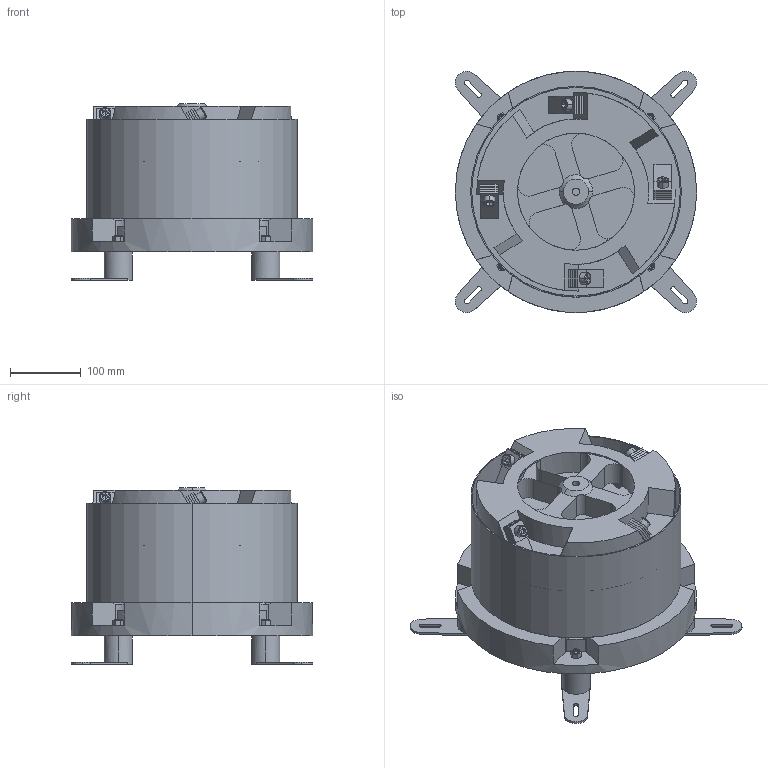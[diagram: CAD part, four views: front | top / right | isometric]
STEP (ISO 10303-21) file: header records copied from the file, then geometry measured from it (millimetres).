
FILE_DESCRIPTION (( 'STEP AP214' ), '1' );
FILE_NAME ('DA300 Ìú¸Ç_2023.STEP', '2023-10-04T06:17:45', ( '' ), ( '' ), 'SwSTEP 2.0', 'SolidWorks 2022', '' );
FILE_SCHEMA (( 'AUTOMOTIVE_DESIGN' ));
Length unit declared in the file: millimetre
Products named in the file (1): DA300 沺裔_2023
Bounding box: 340.25 x 340.22 x 249 mm (x, y, z)
Volume: 11264468.9 mm3; surface area: 840419.5 mm2
Topology: 27 solids, 31 shells, 525 faces, 1261 edges, 807 vertices
Faces by surface type: plane 295, cylinder 154, cone 61, bspline 15
Entity records: 16017 total; most frequent: CARTESIAN_POINT 3257, DIRECTION 2651, ORIENTED_EDGE 2506, EDGE_CURVE 1253, AXIS2_PLACEMENT_3D 974, VERTEX_POINT 807, LINE 703, VECTOR 703
